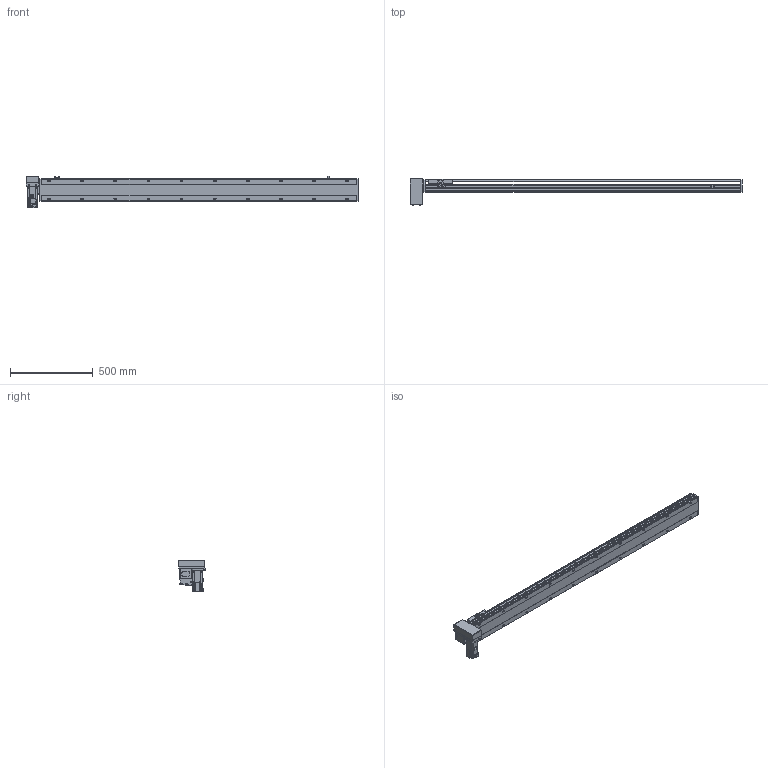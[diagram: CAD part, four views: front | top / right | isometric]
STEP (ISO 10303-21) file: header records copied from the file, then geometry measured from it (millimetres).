
FILE_DESCRIPTION( ( 'STEP AP214' ), '1' );
FILE_NAME( 'x:/temp/worker_3/temp/exporttempdir_5796_18_FUctZ/format_0/PBS140-P40-S1650-RD-T40-C1-N(0).stp', '2022-06-07T05:35:53', ( 'License CC BY-ND 4.0' ), ( 'CADENAS' ), ' ', 'PARTsolutions', ' ' );
FILE_SCHEMA( ( 'AUTOMOTIVE_DESIGN { 1 0 10303 214 1 1 1 1 }' ) );
Length unit declared in the file: millimetre
Products named in the file (7): PBS140-P40-S1650-RD-T40-C1-N(0); _PBS140-S1650()_body; _PBS140T-RD_motors; _T40-p1; _PBS140_sliser; _PBS140_plant; _PBS140_sensor
Assembly tree (8 placements, depth 2):
  PBS140-P40-S1650-RD-T40-C1-N(0)
    _PBS140-S1650()_body
    _PBS140T-RD_motors
    _T40-p1
    _PBS140_sliser
    _PBS140_plant
    _PBS140_sensor  x3
Bounding box: 2004 x 162 x 189.7 mm (x, y, z)
Volume: 9238979.8 mm3; surface area: 1589920.3 mm2
Topology: 8 solids, 8 shells, 1107 faces, 2916 edges, 1905 vertices
Faces by surface type: plane 704, cylinder 347, cone 46, sphere 8, torus 2
Full cylindrical faces by diameter (mm): 3.242 x4, 4 x2, 4.134 x4, 4.4 x8, 4.5 x2, 4.8 x4, 4.917 x28, 5.5 x7, 6 x2, 7 x22, 7.5 x8, 8 x12, 8.5 x4, 10.5 x20, 14 x1, 30 x2, 50 x2
Entity records: 40573 total; most frequent: CARTESIAN_POINT 6587, DIRECTION 5337, ORIENTED_EDGE 5032, EDGE_CURVE 2516, AXIS2_PLACEMENT_3D 1867, VERTEX_POINT 1749, LINE 1603, VECTOR 1603
